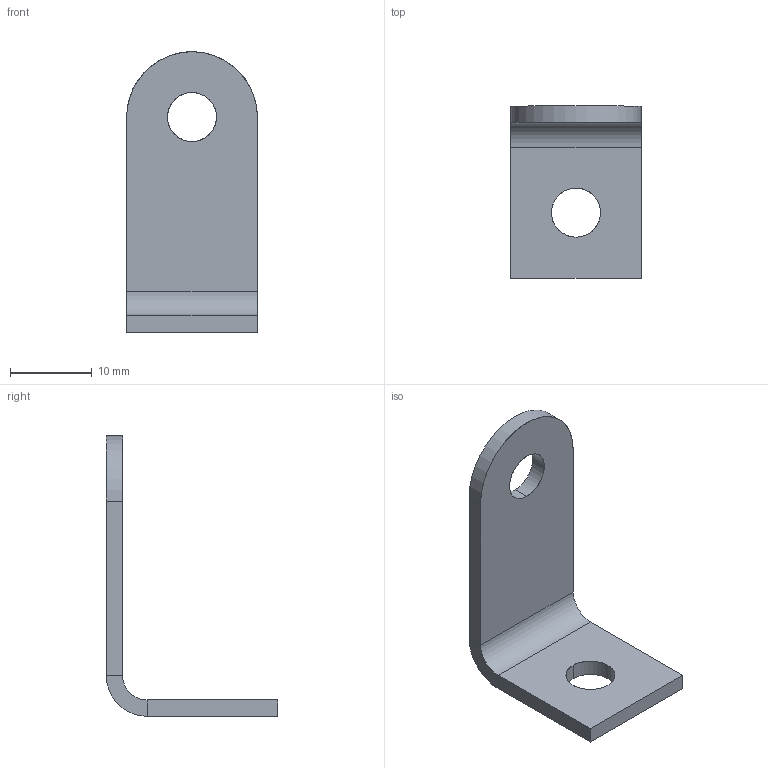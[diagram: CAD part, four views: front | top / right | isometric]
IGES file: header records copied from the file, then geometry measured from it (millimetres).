
Start section: START RECORD GO HERE.
Global section: file name: Chainshield_bracket_1.igs; native system: IBM CATIA IGES - CATIA Version 5 Release 19 ; preprocessor: CATIA Version 5 Release 19 ; author: basti; organization: BASTIEN; date: 20240523.224021; units: millimetre
Bounding box: 16 x 21 x 34.34 mm (x, y, z)
Surface area: 1816 mm2 (no closed solid volume)
Topology: 0 solids, 0 shells, 22 faces, 106 edges, 108 vertices
Faces by surface type: revolution 11, plane 11
